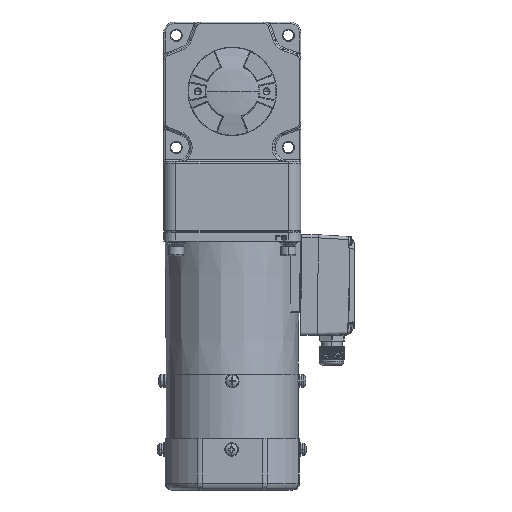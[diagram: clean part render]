
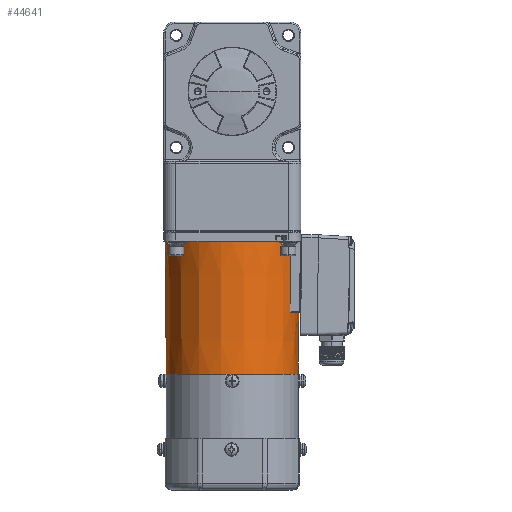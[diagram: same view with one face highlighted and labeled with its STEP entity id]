
A CAD part, front view. The second image highlights one B-rep face of the part: STEP entity #44641.
In plain terms, the highlighted conical face has half-angle 0.5 degrees and reference radius 43.62 mm.
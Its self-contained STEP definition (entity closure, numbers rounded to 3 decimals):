
#415 = ORIENTED_EDGE ( 'NONE', *, *, #26153, .T. ) ;
#2486 = CARTESIAN_POINT ( 'NONE',  ( -68.302, 19.596, 152.25 ) ) ;
#4899 = CARTESIAN_POINT ( 'NONE',  ( 12.831, -1.963, 192.903 ) ) ;
#5434 = CARTESIAN_POINT ( 'NONE',  ( 12.811, -2.001, 193.047 ) ) ;
#9029 = CARTESIAN_POINT ( 'NONE',  ( -69.061, 19.596, 239.25 ) ) ;
#9250 = EDGE_CURVE ( 'NONE', #31151, #27055, #94992, .T. ) ;
#10500 = ORIENTED_EDGE ( 'NONE', *, *, #33751, .F. ) ;
#11655 = CARTESIAN_POINT ( 'NONE',  ( 18.533, 19.596, 192.75 ) ) ;
#12450 = CARTESIAN_POINT ( 'NONE',  ( -69.061, 19.596, 239.25 ) ) ;
#13359 = VERTEX_POINT ( 'NONE', #102175 ) ;
#13478 = DIRECTION ( 'NONE',  ( 0., 0., -1. ) ) ;
#14314 = CARTESIAN_POINT ( 'NONE',  ( 12.887, -1.862, 192.785 ) ) ;
#14877 = CARTESIAN_POINT ( 'NONE',  ( 12.966, -2.269, 223.802 ) ) ;
#17137 = EDGE_CURVE ( 'NONE', #83286, #27055, #98515, .T. ) ;
#22358 = B_SPLINE_CURVE_WITH_KNOTS ( 'NONE', 3,
 ( #62585, #100830, #14877, #53138, #91419, #5434 ),
 .UNSPECIFIED., .F., .F.,
 ( 4, 1, 1, 4 ),
 ( 0., 0.333, 0.667, 1. ),
 .UNSPECIFIED. ) ;
#26153 = EDGE_CURVE ( 'NONE', #62101, #31151, #109383, .T. ) ;
#26400 = EDGE_LOOP ( 'NONE', ( #415, #33949, #47964, #45055, #29377, #86730, #10500 ) ) ;
#27055 = VERTEX_POINT ( 'NONE', #2486 ) ;
#28280 = DIRECTION ( 'NONE',  ( 0., 0., -1. ) ) ;
#29377 = ORIENTED_EDGE ( 'NONE', *, *, #59518, .T. ) ;
#31151 = VERTEX_POINT ( 'NONE', #12450 ) ;
#31219 = EDGE_CURVE ( 'NONE', #87848, #115750, #82940, .T. ) ;
#33189 = CARTESIAN_POINT ( 'NONE',  ( -25.061, 19.596, 195.75 ) ) ;
#33733 = CARTESIAN_POINT ( 'NONE',  ( 12.811, -2.001, 193.047 ) ) ;
#33751 = EDGE_CURVE ( 'NONE', #62101, #115750, #22358, .T. ) ;
#33949 = ORIENTED_EDGE ( 'NONE', *, *, #9250, .T. ) ;
#38568 = CONICAL_SURFACE ( 'NONE', #108701, 43.62, 0.009 ) ;
#38749 = CARTESIAN_POINT ( 'NONE',  ( 18.18, 19.596, 152.25 ) ) ;
#39425 = CIRCLE ( 'NONE', #109599, 43.594 ) ;
#43168 = CARTESIAN_POINT ( 'NONE',  ( 12.826, -1.973, 192.921 ) ) ;
#43824 = CARTESIAN_POINT ( 'NONE',  ( 12.811, -2.001, 193.047 ) ) ;
#44641 = ADVANCED_FACE ( 'NONE', ( #119227 ), #38568, .T. ) ;
#45000 = CARTESIAN_POINT ( 'NONE',  ( -25.061, 19.596, 152.25 ) ) ;
#45055 = ORIENTED_EDGE ( 'NONE', *, *, #91413, .F. ) ;
#47315 = DIRECTION ( 'NONE',  ( 0.009, 0., -1. ) ) ;
#47964 = ORIENTED_EDGE ( 'NONE', *, *, #17137, .F. ) ;
#49916 = DIRECTION ( 'NONE',  ( -0.009, 0., -1. ) ) ;
#51746 = DIRECTION ( 'NONE',  ( 1., 0., 0. ) ) ;
#52604 = CARTESIAN_POINT ( 'NONE',  ( 12.849, -1.93, 192.856 ) ) ;
#53138 = CARTESIAN_POINT ( 'NONE',  ( 12.889, -2.135, 208.402 ) ) ;
#55295 = AXIS2_PLACEMENT_3D ( 'NONE', #114307, #28280, #66648 ) ;
#59518 = EDGE_CURVE ( 'NONE', #13359, #87848, #39425, .T. ) ;
#62054 = CARTESIAN_POINT ( 'NONE',  ( 12.977, -1.701, 192.75 ) ) ;
#62101 = VERTEX_POINT ( 'NONE', #114101 ) ;
#62585 = CARTESIAN_POINT ( 'NONE',  ( 13.044, -2.404, 239.25 ) ) ;
#66648 = DIRECTION ( 'NONE',  ( 0.866, -0.5, 0. ) ) ;
#68796 = LINE ( 'NONE', #11655, #84375 ) ;
#70624 = CARTESIAN_POINT ( 'NONE',  ( 12.977, -1.701, 192.75 ) ) ;
#71531 = DIRECTION ( 'NONE',  ( 0., 0., 1. ) ) ;
#81483 = CARTESIAN_POINT ( 'NONE',  ( 12.814, -1.993, 192.973 ) ) ;
#82940 = B_SPLINE_CURVE_WITH_KNOTS ( 'NONE', 3,
 ( #62054, #100270, #14314, #52604, #90883, #4899, #43168, #81483, #119765, #33733 ),
 .UNSPECIFIED., .F., .F.,
 ( 4, 2, 2, 2, 4 ),
 ( 0., 0.5, 0.625, 0.75, 1. ),
 .UNSPECIFIED. ) ;
#83286 = VERTEX_POINT ( 'NONE', #38749 ) ;
#83303 = DIRECTION ( 'NONE',  ( 0., 0., -1. ) ) ;
#84375 = VECTOR ( 'NONE', #49916, 1000. ) ;
#86730 = ORIENTED_EDGE ( 'NONE', *, *, #31219, .T. ) ;
#87848 = VERTEX_POINT ( 'NONE', #70624 ) ;
#90883 = CARTESIAN_POINT ( 'NONE',  ( 12.842, -1.942, 192.871 ) ) ;
#91413 = EDGE_CURVE ( 'NONE', #13359, #83286, #68796, .T. ) ;
#91419 = CARTESIAN_POINT ( 'NONE',  ( 12.837, -2.046, 198.161 ) ) ;
#94992 = LINE ( 'NONE', #9029, #106887 ) ;
#98515 = CIRCLE ( 'NONE', #114606, 43.241 ) ;
#99424 = CARTESIAN_POINT ( 'NONE',  ( -25.061, 19.596, 192.75 ) ) ;
#100270 = CARTESIAN_POINT ( 'NONE',  ( 12.931, -1.783, 192.75 ) ) ;
#100830 = CARTESIAN_POINT ( 'NONE',  ( 13.018, -2.359, 234.096 ) ) ;
#102175 = CARTESIAN_POINT ( 'NONE',  ( 18.533, 19.596, 192.75 ) ) ;
#106887 = VECTOR ( 'NONE', #47315, 1000. ) ;
#108701 = AXIS2_PLACEMENT_3D ( 'NONE', #33189, #71531, #109778 ) ;
#109383 = CIRCLE ( 'NONE', #55295, 44. ) ;
#109599 = AXIS2_PLACEMENT_3D ( 'NONE', #99424, #13478, #51746 ) ;
#109778 = DIRECTION ( 'NONE',  ( -1., 0., 0. ) ) ;
#114101 = CARTESIAN_POINT ( 'NONE',  ( 13.044, -2.404, 239.25 ) ) ;
#114307 = CARTESIAN_POINT ( 'NONE',  ( -25.061, 19.596, 239.25 ) ) ;
#114606 = AXIS2_PLACEMENT_3D ( 'NONE', #45000, #83303, #121587 ) ;
#115750 = VERTEX_POINT ( 'NONE', #43824 ) ;
#119227 = FACE_OUTER_BOUND ( 'NONE', #26400, .T. ) ;
#119765 = CARTESIAN_POINT ( 'NONE',  ( 12.811, -2., 193.009 ) ) ;
#121587 = DIRECTION ( 'NONE',  ( 1., 0., 0. ) ) ;
